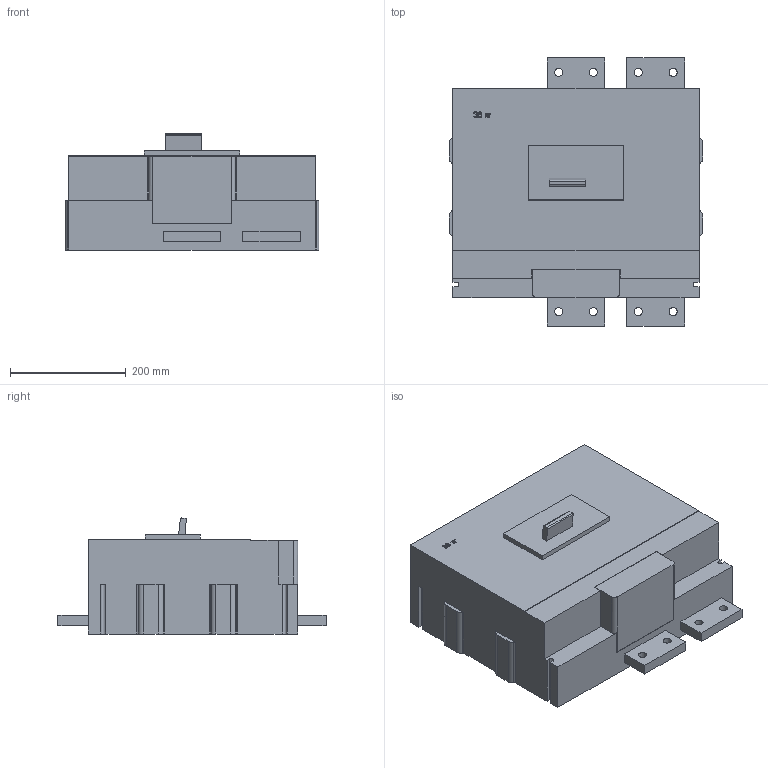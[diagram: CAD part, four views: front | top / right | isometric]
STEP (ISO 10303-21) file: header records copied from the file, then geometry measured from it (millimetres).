
FILE_DESCRIPTION (( 'STEP AP214' ), '1' );
FILE_NAME ('ﾂﾀ 53(55)-43 DC 1600ﾀ.STEP', '2023-02-08T12:14:05', ( '' ), ( '' ), 'SwSTEP 2.0', 'SolidWorks 2018', '' );
FILE_SCHEMA (( 'AUTOMOTIVE_DESIGN' ));
Length unit declared in the file: millimetre
Products named in the file (1): ﾂﾀ 53(55)-43 DC 1600ﾀ
Bounding box: 438 x 462.5 x 200.19 mm (x, y, z)
Volume: 24819042.7 mm3; surface area: 670662.3 mm2
Topology: 1 solids, 1 shells, 123 faces, 385 edges, 275 vertices
Faces by surface type: plane 91, cylinder 30, bspline 2
Full cylindrical faces by diameter (mm): 14 x8
Entity records: 4829 total; most frequent: CARTESIAN_POINT 1320, ORIENTED_EDGE 754, DIRECTION 637, EDGE_CURVE 377, VERTEX_POINT 275, VECTOR 273, LINE 273, AXIS2_PLACEMENT_3D 182
